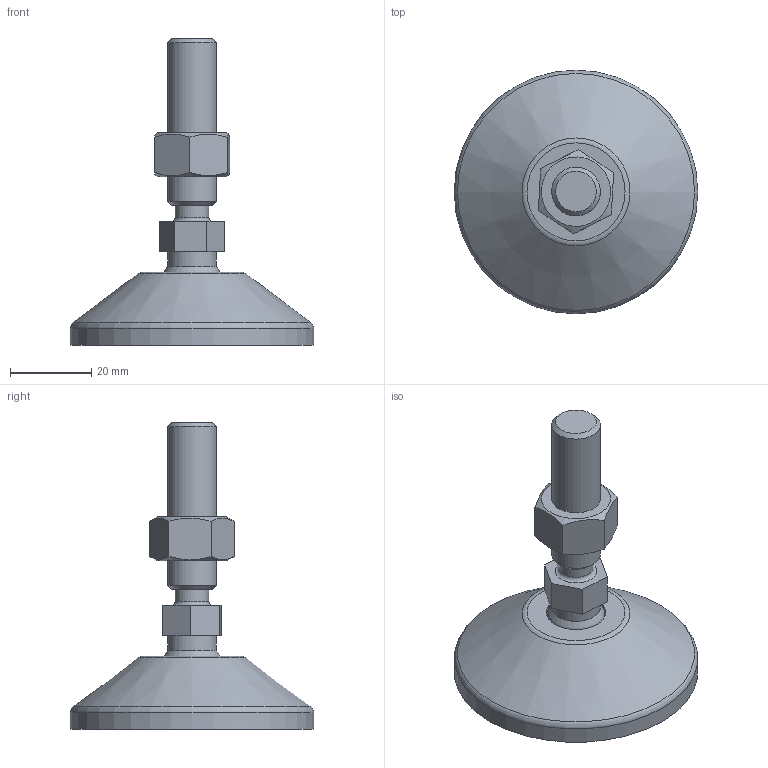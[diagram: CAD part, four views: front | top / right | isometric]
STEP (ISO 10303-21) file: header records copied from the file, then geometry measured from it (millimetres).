
FILE_DESCRIPTION(('STEP AP203'), '1');
FILE_NAME('栖闉罻', '', ('UNSPECIFIED'), ('UNSPECIFIED'), 'C3D Converter', 'C3D Toolkit', '');
FILE_SCHEMA(('CONFIG_CONTROL_DESIGN'));
Length unit declared in the file: millimetre
Products named in the file (4): A00020.112045; A00015.1060
Assembly tree (3 placements, depth 3):
  (unnamed)
    A00020.112045
      (unnamed)
    A00015.1060
Bounding box: 60 x 60 x 75.5 mm (x, y, z)
Volume: 29883.5 mm3; surface area: 14174.6 mm2
Topology: 3 solids, 3 shells, 153 faces, 404 edges, 270 vertices
Faces by surface type: plane 87, cylinder 34, torus 21, cone 9, sphere 2
Full cylindrical faces by diameter (mm): 4 x8, 8.3 x1, 10.647 x1, 12 x2, 14.3 x1, 15 x2, 15.5 x1, 50.5 x1, 60 x1
Entity records: 7831 total; most frequent: CARTESIAN_POINT 2711, DIRECTION 776, ORIENTED_EDGE 738, EDGE_CURVE 369, AXIS2_PLACEMENT_3D 312, VERTEX_POINT 269, EDGE_LOOP 202, FACE_BOUND 162
